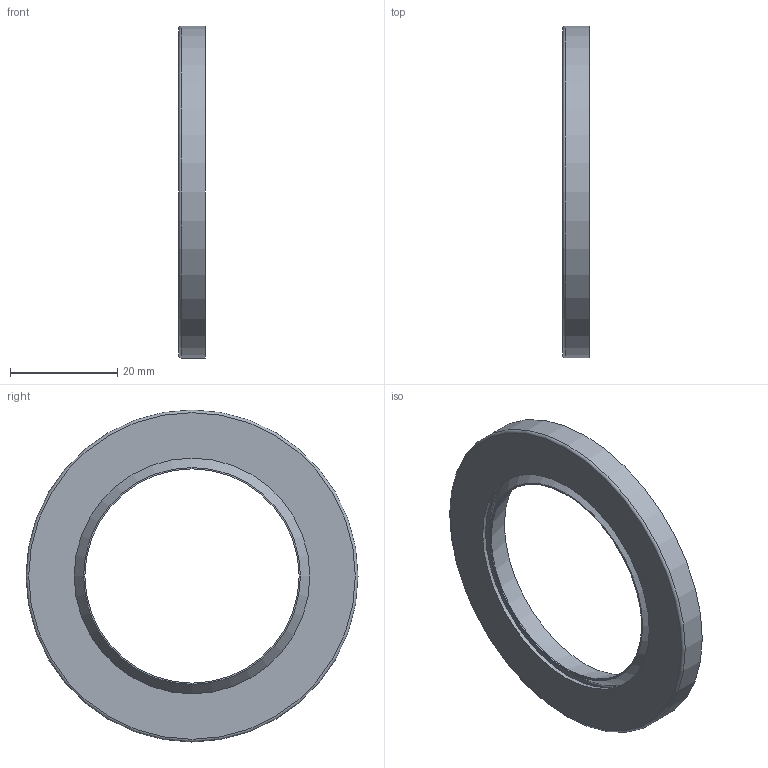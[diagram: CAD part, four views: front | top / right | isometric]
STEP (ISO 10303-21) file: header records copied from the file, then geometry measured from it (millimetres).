
FILE_DESCRIPTION(('STEP AP203'),'1');
FILE_NAME('//192.168.1.1/share/s-4 技術開発/s-4-4_CAD/s-4-4-9_CSR提出用/ボールブッシューフランジ無ボールブッシュ(ASK-Boschボールブッシュ)/SBX_STEP/SBX-40.step','2022-06-21T05:55:32',(' '),(' '),'Spatial InterOp 3D',' ',' ');
FILE_SCHEMA(('CONFIG_CONTROL_DESIGN'));
Length unit declared in the file: millimetre
Products named in the file (1): 1
Bounding box: 5 x 62 x 62 mm (x, y, z)
Volume: 6751.2 mm3; surface area: 6904.6 mm2
Topology: 1 solids, 1 shells, 14 faces, 23 edges, 14 vertices
Faces by surface type: plane 5, cylinder 3, cone 3, torus 3
Full cylindrical faces by diameter (mm): 40 x1, 44 x1, 62 x1
Entity records: 332 total; most frequent: DIRECTION 58, CARTESIAN_POINT 43, AXIS2_PLACEMENT_3D 29, EDGE_LOOP 28, ORIENTED_EDGE 28, FACE_OUTER_BOUND 20, ADVANCED_FACE 14, EDGE_CURVE 14
